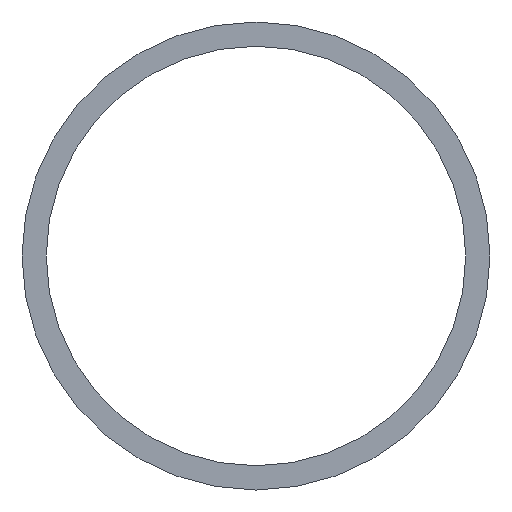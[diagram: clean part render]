
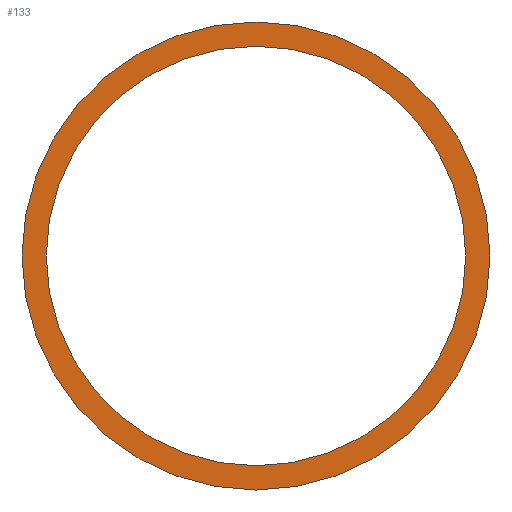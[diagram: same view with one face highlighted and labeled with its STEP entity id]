
A CAD part, front view. The second image highlights one B-rep face of the part: STEP entity #133.
In plain terms, the highlighted planar face has unit normal (0, -1, 0).
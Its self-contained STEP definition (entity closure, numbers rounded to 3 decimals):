
#1 = DIRECTION ( 'NONE',  ( -1., 0., 0. ) ) ;
#5 = DIRECTION ( 'NONE',  ( -1., 0., 0. ) ) ;
#20 = DIRECTION ( 'NONE',  ( 0., 1., 0. ) ) ;
#22 = EDGE_LOOP ( 'NONE', ( #180, #48 ) ) ;
#25 = DIRECTION ( 'NONE',  ( 0., 1., 0. ) ) ;
#29 = VERTEX_POINT ( 'NONE', #149 ) ;
#31 = AXIS2_PLACEMENT_3D ( 'NONE', #100, #64, #200 ) ;
#48 = ORIENTED_EDGE ( 'NONE', *, *, #139, .T. ) ;
#52 = AXIS2_PLACEMENT_3D ( 'NONE', #203, #58, #117 ) ;
#58 = DIRECTION ( 'NONE',  ( 0., 1., 0. ) ) ;
#59 = CARTESIAN_POINT ( 'NONE',  ( -92., 2087., 6275.85 ) ) ;
#64 = DIRECTION ( 'NONE',  ( 0., 1., 0. ) ) ;
#68 = EDGE_CURVE ( 'NONE', #155, #125, #167, .T. ) ;
#72 = EDGE_CURVE ( 'NONE', #89, #29, #80, .T. ) ;
#73 = PLANE ( 'NONE',  #141 ) ;
#80 = CIRCLE ( 'NONE', #164, 24.15 ) ;
#81 = CARTESIAN_POINT ( 'NONE',  ( -92., 2087., 6275.85 ) ) ;
#86 = AXIS2_PLACEMENT_3D ( 'NONE', #59, #205, #5 ) ;
#89 = VERTEX_POINT ( 'NONE', #162 ) ;
#100 = CARTESIAN_POINT ( 'NONE',  ( -92., 2087., 6275.85 ) ) ;
#106 = DIRECTION ( 'NONE',  ( 0., 0., 1. ) ) ;
#108 = ORIENTED_EDGE ( 'NONE', *, *, #166, .F. ) ;
#117 = DIRECTION ( 'NONE',  ( -1., 0., 0. ) ) ;
#118 = CIRCLE ( 'NONE', #86, 24.15 ) ;
#119 = CARTESIAN_POINT ( 'NONE',  ( -70.35, 2087., 6275.85 ) ) ;
#122 = FACE_OUTER_BOUND ( 'NONE', #127, .T. ) ;
#125 = VERTEX_POINT ( 'NONE', #119 ) ;
#127 = EDGE_LOOP ( 'NONE', ( #108, #208 ) ) ;
#133 = ADVANCED_FACE ( 'NONE', ( #189, #122 ), #73, .F. ) ;
#139 = EDGE_CURVE ( 'NONE', #125, #155, #188, .T. ) ;
#141 = AXIS2_PLACEMENT_3D ( 'NONE', #157, #25, #106 ) ;
#149 = CARTESIAN_POINT ( 'NONE',  ( -116.15, 2087., 6275.85 ) ) ;
#155 = VERTEX_POINT ( 'NONE', #187 ) ;
#157 = CARTESIAN_POINT ( 'NONE',  ( -82., 2087., 6275.85 ) ) ;
#162 = CARTESIAN_POINT ( 'NONE',  ( -67.85, 2087., 6275.85 ) ) ;
#164 = AXIS2_PLACEMENT_3D ( 'NONE', #81, #20, #1 ) ;
#166 = EDGE_CURVE ( 'NONE', #29, #89, #118, .T. ) ;
#167 = CIRCLE ( 'NONE', #31, 21.65 ) ;
#180 = ORIENTED_EDGE ( 'NONE', *, *, #68, .T. ) ;
#187 = CARTESIAN_POINT ( 'NONE',  ( -113.65, 2087., 6275.85 ) ) ;
#188 = CIRCLE ( 'NONE', #52, 21.65 ) ;
#189 = FACE_BOUND ( 'NONE', #22, .T. ) ;
#200 = DIRECTION ( 'NONE',  ( -1., 0., 0. ) ) ;
#203 = CARTESIAN_POINT ( 'NONE',  ( -92., 2087., 6275.85 ) ) ;
#205 = DIRECTION ( 'NONE',  ( 0., 1., 0. ) ) ;
#208 = ORIENTED_EDGE ( 'NONE', *, *, #72, .F. ) ;
